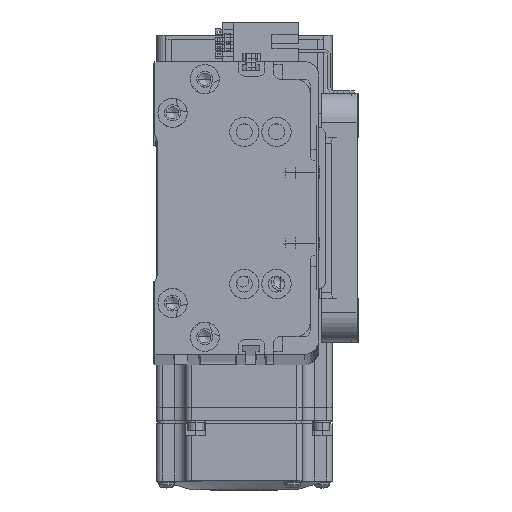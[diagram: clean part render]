
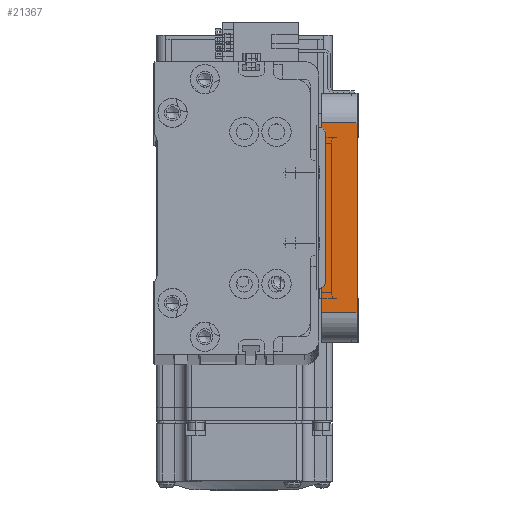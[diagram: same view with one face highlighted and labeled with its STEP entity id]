
A CAD part, top view. The second image highlights one B-rep face of the part: STEP entity #21367.
In plain terms, the highlighted planar face has unit normal (0, 0, 1) as drawn and (-1, 0, 0) by its records, which use the part's own axes.
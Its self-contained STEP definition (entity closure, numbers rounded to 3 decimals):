
#1020 = LINE ( 'NONE', #76010, #63588 ) ;
#5946 = DIRECTION ( 'NONE',  ( 1., 0., 0. ) ) ;
#12030 = PLANE ( 'NONE',  #73347 ) ;
#15046 = CARTESIAN_POINT ( 'NONE',  ( -55., 32.5, 12. ) ) ;
#16442 = CARTESIAN_POINT ( 'NONE',  ( -55., -42.5, 0. ) ) ;
#17788 = LINE ( 'NONE', #38659, #39572 ) ;
#18134 = CARTESIAN_POINT ( 'NONE',  ( -55., -42.5, 12. ) ) ;
#19709 = EDGE_LOOP ( 'NONE', ( #19745, #64129, #61921, #57191 ) ) ;
#19745 = ORIENTED_EDGE ( 'NONE', *, *, #62283, .T. ) ;
#21367 = ADVANCED_FACE ( 'NONE', ( #23160 ), #12030, .F. ) ;
#21774 = CARTESIAN_POINT ( 'NONE',  ( -55., -32.5, 12. ) ) ;
#23160 = FACE_OUTER_BOUND ( 'NONE', #19709, .T. ) ;
#24209 = EDGE_CURVE ( 'NONE', #52163, #60616, #1020, .T. ) ;
#27428 = VECTOR ( 'NONE', #34390, 1000. ) ;
#34390 = DIRECTION ( 'NONE',  ( 0., -1., 0. ) ) ;
#37228 = CARTESIAN_POINT ( 'NONE',  ( -55., 32.5, 0. ) ) ;
#38129 = CARTESIAN_POINT ( 'NONE',  ( -55., -32.5, 0. ) ) ;
#38659 = CARTESIAN_POINT ( 'NONE',  ( -55., -42.5, 12. ) ) ;
#39572 = VECTOR ( 'NONE', #74930, 1000. ) ;
#44991 = EDGE_CURVE ( 'NONE', #61477, #62536, #74113, .T. ) ;
#46245 = EDGE_CURVE ( 'NONE', #61477, #60616, #17788, .T. ) ;
#46378 = DIRECTION ( 'NONE',  ( 0., 0., 1. ) ) ;
#52163 = VERTEX_POINT ( 'NONE', #38129 ) ;
#54199 = VECTOR ( 'NONE', #74374, 1000. ) ;
#57191 = ORIENTED_EDGE ( 'NONE', *, *, #44991, .T. ) ;
#60616 = VERTEX_POINT ( 'NONE', #21774 ) ;
#61477 = VERTEX_POINT ( 'NONE', #15046 ) ;
#61921 = ORIENTED_EDGE ( 'NONE', *, *, #46245, .F. ) ;
#62283 = EDGE_CURVE ( 'NONE', #62536, #52163, #73838, .T. ) ;
#62536 = VERTEX_POINT ( 'NONE', #37228 ) ;
#63588 = VECTOR ( 'NONE', #46378, 1000. ) ;
#64129 = ORIENTED_EDGE ( 'NONE', *, *, #24209, .T. ) ;
#66530 = DIRECTION ( 'NONE',  ( 0., 0., -1. ) ) ;
#73347 = AXIS2_PLACEMENT_3D ( 'NONE', #18134, #5946, #66530 ) ;
#73838 = LINE ( 'NONE', #16442, #27428 ) ;
#74113 = LINE ( 'NONE', #74121, #54199 ) ;
#74121 = CARTESIAN_POINT ( 'NONE',  ( -55., 32.5, 12. ) ) ;
#74374 = DIRECTION ( 'NONE',  ( 0., 0., -1. ) ) ;
#74930 = DIRECTION ( 'NONE',  ( 0., -1., 0. ) ) ;
#76010 = CARTESIAN_POINT ( 'NONE',  ( -55., -32.5, 12. ) ) ;
